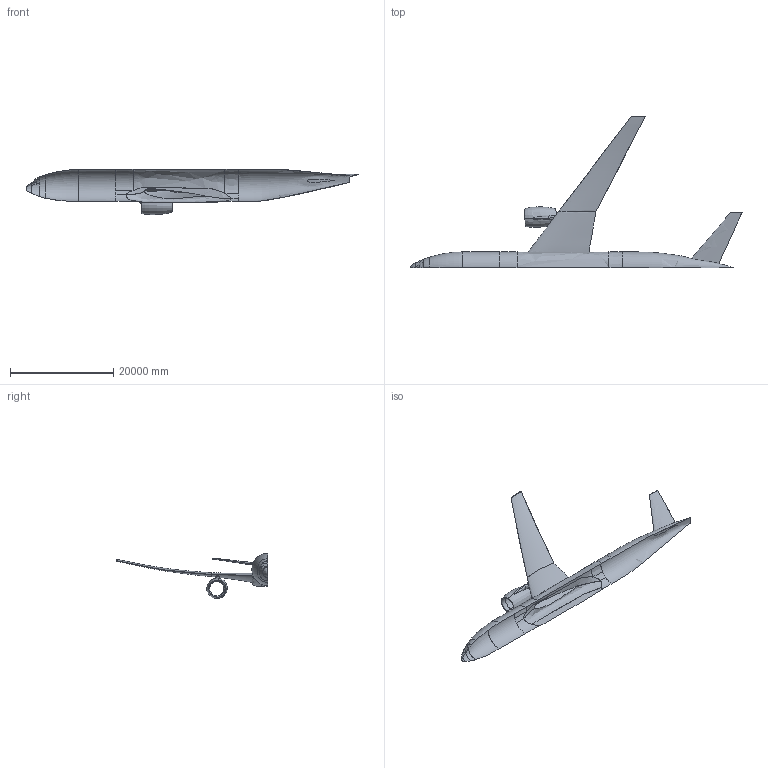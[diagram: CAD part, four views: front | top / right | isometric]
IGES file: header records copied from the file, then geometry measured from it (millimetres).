
Start section:  * IGES Dump file written on 1 Feb 2016  *  * IGES Dump file:  * C:\Users\mrg\work\AIAA_DPW\DPW6\DLR_meshes\all\3deg00\DPW6_CRM_wbnpt  * _ih+0_v09_2016-01-28_ae3.00deg_cf.igs  *  * Created from part:  * EXP1  *  * Contained in model:  * DPW6_CRM_wbnpt_ih+0_v09_2016-01-28_ae3  *
Global section: file name: filename_too_long.igs; native system: CADfix; preprocessor:   10/25879; date: 20160201.210356; units: inch
Bounding box: 64362.38 x 29447.78 x 8766.68 mm (x, y, z)
Surface area: 1105622085.7 mm2 (no closed solid volume)
Topology: 0 solids, 0 shells, 61 faces, 448 edges, 13655 vertices
Faces by surface type: bspline 61
